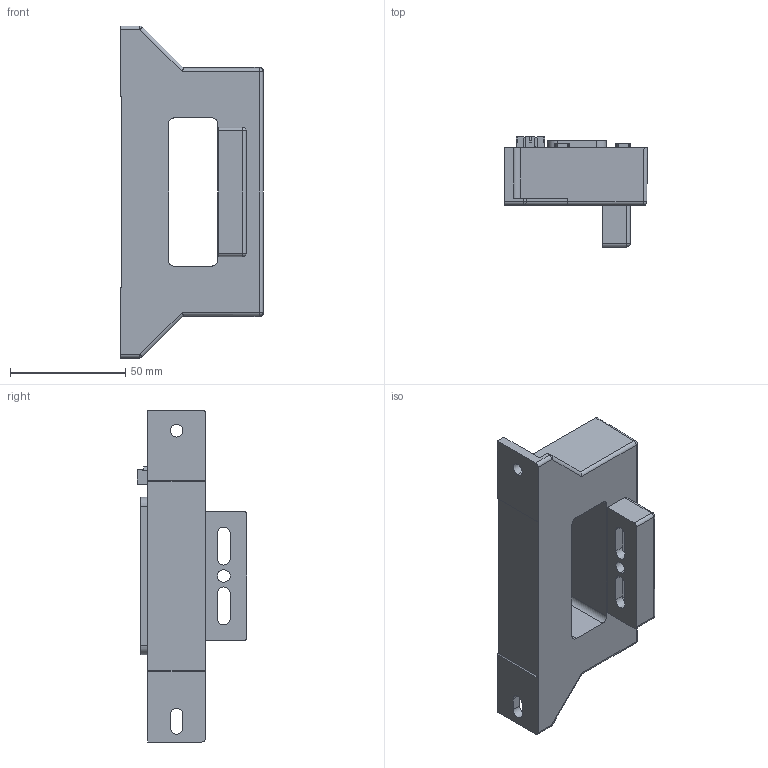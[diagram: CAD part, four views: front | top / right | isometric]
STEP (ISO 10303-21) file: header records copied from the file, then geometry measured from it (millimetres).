
FILE_DESCRIPTION(('Creo Elements/Direct Modeling STEP Export'),'2;1');
FILE_NAME('HAX 2000-S-SP20.stp','2016-08-08T 9:34:13',(''),(''),'PTC Creo Elements/Direct Modeling STEP processor for AP214 (Solid Model)','PTC Creo Elements/Direct Modeling 19.0B 21-Mar-2015 (C) Parametric Technology GmbH','');
FILE_SCHEMA(('AUTOMOTIVE_DESIGN { 1 0 10303 214 1 1 1 1 }'));
Length unit declared in the file: millimetre
Products named in the file (2): HAX_2000_S_SP20_Blackbox
Assembly tree (1 placements, depth 2):
  HAX_2000_S_SP20_Blackbox
    HAX_2000_S_SP20_Blackbox
Bounding box: 62 x 47.6 x 144 mm (x, y, z)
Volume: 142592.4 mm3; surface area: 31075.1 mm2
Topology: 1 solids, 17 shells, 972 faces, 2599 edges, 1718 vertices
Faces by surface type: plane 736, cylinder 127, extrusion 99, sphere 6, cone 4
Entity records: 34105 total; most frequent: CARTESIAN_POINT 9144, ORIENTED_EDGE 5186, DIRECTION 4403, EDGE_CURVE 2593, VECTOR 2227, LINE 2128, VERTEX_POINT 1718, AXIS2_PLACEMENT_3D 1088
